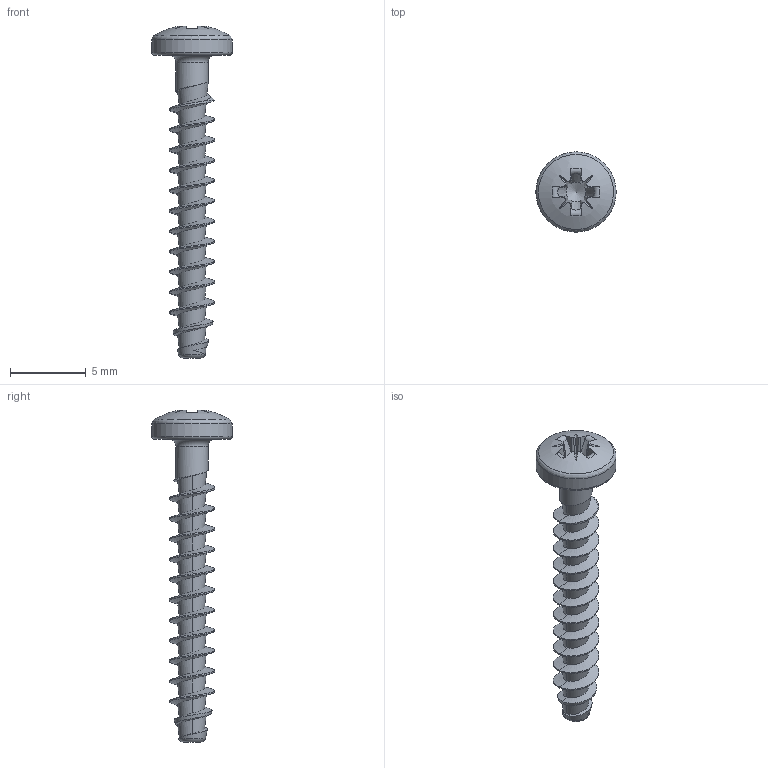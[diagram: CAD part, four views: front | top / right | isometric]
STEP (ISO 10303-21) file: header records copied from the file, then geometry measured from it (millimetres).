
FILE_DESCRIPTION(/* description */ (''),/* implementation_level */ '2;1');
FILE_NAME(/* name */ 'KN1032-Neu-STS-30x20-Z1.step',/* time_stamp */ '2017-10-11T13:17:35+02:00',/* author */ (''),/* organization */ (''),/* preprocessor_version */ 'ST-DEVELOPER v16',/* originating_system */ 'SIEMENS PLM Software NX 10.0',/* authorisation */ '');
FILE_SCHEMA (('AUTOMOTIVE_DESIGN { 1 0 10303 214 3 1 1 1 }'));
Length unit declared in the file: millimetre
Products named in the file (1): KN1032-Neu-STS-30x18-Z1
Bounding box: 5.3 x 5.3 x 21.93 mm (x, y, z)
Volume: 96.9 mm3; surface area: 278.9 mm2
Topology: 1 solids, 1 shells, 96 faces, 248 edges, 154 vertices
Faces by surface type: bspline 42, plane 26, cylinder 12, torus 8, cone 7, sphere 1
Full cylindrical faces by diameter (mm): 2.12 x1, 5.3 x1
Entity records: 5644 total; most frequent: CARTESIAN_POINT 3705, ORIENTED_EDGE 464, DIRECTION 269, EDGE_CURVE 232, VERTEX_POINT 148, B_SPLINE_CURVE_WITH_KNOTS 118, EDGE_LOOP 103, AXIS2_PLACEMENT_3D 101
